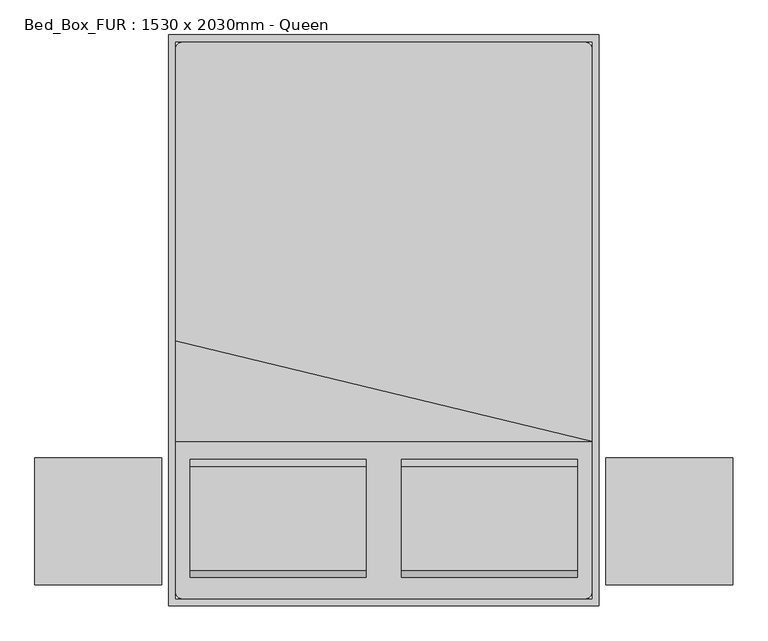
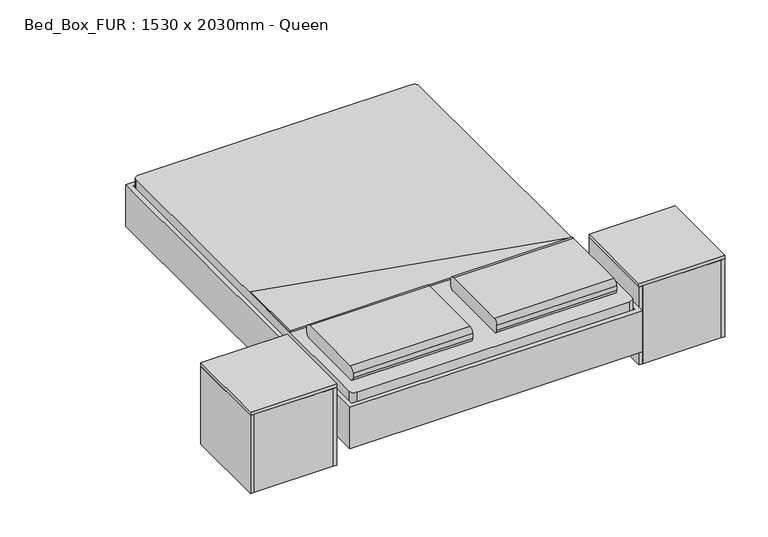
"""IFC4 building model written with IfcOpenShell, lengths in millimetres: furniture geometry, Bed_Box_FUR : 1530 x 2030mm - Queen."""

from ifc_helpers import new_model, si_unit, point, frame, frame_2d, origin, origin_with_axes, place, context, project, spatial, polyline, circle_curve, trimmed, segment, composite_curve, outline, extrude, source, transform, mapped, element, save
from ifc_brep_helpers import plane_surface, cylinder_surface, revolved_surface, advanced_brep


def bed_box_fur_1530_x_2030mm_queen_ec8485ed(model_context):
    return source(origin(), model_context, "Body", "SolidModel", [
        extrude(outline(polyline([(1149.152459, -700.1704918), (1149.152459, -305.1704918), (1559.152459, -305.1704918), (1559.152459, -700.1704918), (1149.152459, -700.1704918)])), origin_with_axes(), (0.0, 0.0, 1.0), 50.0),
        extrude(outline(polyline([(1149.152459, -700.1704918), (1149.152459, -255.1704918), (1559.152459, -255.1704918), (1559.152459, -700.1704918), (1149.152459, -700.1704918)])), frame((0.0, 0.0, 50.0), z_axis=(0.0, 0.0, 1.0), x_axis=(1.0, 0.0, 0.0)), (0.0, 0.0, 1.0), 250.0),
        extrude(outline(polyline([(1149.152459, -700.1704918), (1559.152459, -700.1704918), (1559.152459, -705.1704918), (1149.152459, -705.1704918), (1149.152459, -700.1704918)])), origin_with_axes(), (0.0, 0.0, 1.0), 430.0),
        extrude(outline(polyline([(1129.152459, -705.1704918), (1129.152459, -255.1704918), (1149.152459, -255.1704918), (1149.152459, -705.1704918), (1129.152459, -705.1704918)])), origin_with_axes(), (0.0, 0.0, 1.0), 430.0),
        extrude(outline(polyline([(1559.152459, -705.1704918), (1559.152459, -255.1704918), (1579.152459, -255.1704918), (1579.152459, -705.1704918), (1559.152459, -705.1704918)])), origin_with_axes(), (0.0, 0.0, 1.0), 430.0),
        extrude(outline(polyline([(1129.152459, -705.1704918), (1129.152459, -255.1704918), (1579.152459, -255.1704918), (1579.152459, -705.1704918), (1129.152459, -705.1704918)])), frame((0.0, 0.0, 430.0), z_axis=(0.0, 0.0, 1.0), x_axis=(1.0, 0.0, 0.0)), (0.0, 0.0, 1.0), 20.0),
        extrude(outline(polyline([(-470.847541, -700.1704918), (-880.847541, -700.1704918), (-880.847541, -305.1704918), (-470.847541, -305.1704918), (-470.847541, -700.1704918)])), origin_with_axes(), (0.0, 0.0, 1.0), 50.0),
        extrude(outline(polyline([(-470.847541, -700.1704918), (-880.847541, -700.1704918), (-880.847541, -255.1704918), (-470.847541, -255.1704918), (-470.847541, -700.1704918)])), frame((0.0, 0.0, 50.0), z_axis=(0.0, 0.0, 1.0), x_axis=(1.0, 0.0, 0.0)), (0.0, 0.0, 1.0), 250.0),
        extrude(outline(polyline([(-470.847541, -700.1704918), (-470.847541, -705.1704918), (-880.847541, -705.1704918), (-880.847541, -700.1704918), (-470.847541, -700.1704918)])), origin_with_axes(), (0.0, 0.0, 1.0), 430.0),
        extrude(outline(polyline([(-450.847541, -705.1704918), (-470.847541, -705.1704918), (-470.847541, -255.1704918), (-450.847541, -255.1704918), (-450.847541, -705.1704918)])), origin_with_axes(), (0.0, 0.0, 1.0), 430.0),
        extrude(outline(polyline([(-880.847541, -705.1704918), (-900.847541, -705.1704918), (-900.847541, -255.1704918), (-880.847541, -255.1704918), (-880.847541, -705.1704918)])), origin_with_axes(), (0.0, 0.0, 1.0), 430.0),
        extrude(outline(polyline([(-450.847541, -705.1704918), (-900.847541, -705.1704918), (-900.847541, -255.1704918), (-450.847541, -255.1704918), (-450.847541, -705.1704918)])), frame((0.0, 0.0, 430.0), z_axis=(0.0, 0.0, 1.0), x_axis=(1.0, 0.0, 0.0)), (0.0, 0.0, 1.0), 20.0),
        extrude(outline(composite_curve([segment(trimmed(circle_curve(frame_2d((-653.5704918, 431.8)), 25.4), [point((-653.5704918, 406.4))], [point((-678.9704918, 431.8))], False, "CARTESIAN"), True, "CONTINUOUS"), segment(polyline([(-678.9704918, 431.8), (-678.9704918, 457.2)]), True, "CONTINUOUS"), segment(trimmed(circle_curve(frame_2d((-653.5704918, 457.2)), 25.4), [point((-678.9704918, 457.2))], [point((-653.5704918, 482.6))], False, "CARTESIAN"), True, "CONTINUOUS"), segment(polyline([(-653.5704918, 482.6), (-285.2704918, 482.6)]), True, "CONTINUOUS"), segment(trimmed(circle_curve(frame_2d((-285.2704918, 457.2)), 25.4), [point((-285.2704918, 482.6))], [point((-259.8704918, 457.2))], False, "CARTESIAN"), True, "CONTINUOUS"), segment(polyline([(-259.8704918, 457.2), (-259.8704918, 431.8)]), True, "CONTINUOUS"), segment(trimmed(circle_curve(frame_2d((-285.2704918, 431.8)), 25.4), [point((-259.8704918, 431.8))], [point((-285.2704918, 406.4))], False, "CARTESIAN"), True, "CONTINUOUS"), segment(polyline([(-285.2704918, 406.4), (-653.5704918, 406.4)]), True, "CONTINUOUS")], self_intersect=False)), frame((402.652459, 0.0, 0.0), z_axis=(1.0, 0.0, 0.0), x_axis=(0.0, 1.0, 0.0)), (0.0, 0.0, 1.0), 625.3),
        extrude(outline(composite_curve([segment(trimmed(circle_curve(frame_2d((-653.5704918, 431.8)), 25.4), [point((-653.5704918, 406.4))], [point((-678.9704918, 431.8))], False, "CARTESIAN"), True, "CONTINUOUS"), segment(polyline([(-678.9704918, 431.8), (-678.9704918, 457.2)]), True, "CONTINUOUS"), segment(trimmed(circle_curve(frame_2d((-653.5704918, 457.2)), 25.4), [point((-678.9704918, 457.2))], [point((-653.5704918, 482.6))], False, "CARTESIAN"), True, "CONTINUOUS"), segment(polyline([(-653.5704918, 482.6), (-285.2704918, 482.6)]), True, "CONTINUOUS"), segment(trimmed(circle_curve(frame_2d((-285.2704918, 457.2)), 25.4), [point((-285.2704918, 482.6))], [point((-259.8704918, 457.2))], False, "CARTESIAN"), True, "CONTINUOUS"), segment(polyline([(-259.8704918, 457.2), (-259.8704918, 431.8)]), True, "CONTINUOUS"), segment(trimmed(circle_curve(frame_2d((-285.2704918, 431.8)), 25.4), [point((-259.8704918, 431.8))], [point((-285.2704918, 406.4))], False, "CARTESIAN"), True, "CONTINUOUS"), segment(polyline([(-285.2704918, 406.4), (-653.5704918, 406.4)]), True, "CONTINUOUS")], self_intersect=False)), frame((-349.647541, 0.0, 0.0), z_axis=(1.0, 0.0, 0.0), x_axis=(0.0, 1.0, 0.0)), (0.0, 0.0, 1.0), 625.3),
        advanced_brep(
        [(-400.1231784, -526.5704918, 177.8), (-400.1231784, -526.5704918, 196.85), (-400.1231784, -450.3704918, 196.85), (-400.1231784, -450.3704918, 177.8), (-349.3231784, -450.3704918, 177.8), (-349.3231784, -526.5704918, 177.8), (-337.1869899, -450.3704918, 196.85), (-337.1869899, -526.5704918, 196.85), (-273.2523099, -450.3704918, 14.6654962), (-273.2523099, -526.5704918, 14.6654962), (-255.9871466, -450.3704918, 22.716374), (-255.9871466, -526.5704918, 22.716374), (-250.2320921, -450.3704918, 0.0), (-250.2320921, -526.5704918, 0.0), (-250.2320921, -450.3704918, 19.05), (-250.2320921, -526.5704918, 19.05), (-171.6195862, -450.3704918, 0.0), (-171.6195862, -526.5704918, 0.0), (-171.6195862, -450.3704918, 19.05), (-171.6195862, -526.5704918, 19.05), (-158.9195862, -450.3704918, 3.4029547), (-158.9195862, -526.5704918, 3.4029547), (-168.4445862, -450.3704918, 19.9007387), (-168.4445862, -526.5704918, 19.9007387), (-98.822541, -450.3704918, 38.1), (-98.822541, -526.5704918, 38.1), (-103.9269731, -450.3704918, 57.15), (-103.9269731, -526.5704918, 57.15), (777.4518216, -450.3704918, 38.1), (777.4518216, -526.5704918, 38.1), (782.5562537, -450.3704918, 57.15), (782.5562537, -526.5704918, 57.15), (837.5488669, -450.3704918, 3.4029547), (837.5488669, -526.5704918, 3.4029547), (847.0738669, -450.3704918, 19.9007387), (847.0738669, -526.5704918, 19.9007387), (850.2488669, -450.3704918, 0.0), (850.2488669, -526.5704918, 0.0), (850.2488669, -450.3704918, 19.05), (850.2488669, -526.5704918, 19.05), (928.8613728, -450.3704918, 0.0), (928.8613728, -526.5704918, 0.0), (928.8613728, -450.3704918, 19.05), (928.8613728, -526.5704918, 19.05), (951.8815906, -450.3704918, 14.6654962), (951.8815906, -526.5704918, 14.6654962), (934.6164272, -450.3704918, 22.716374), (934.6164272, -526.5704918, 22.716374), (1027.952459, -450.3704918, 177.8), (1027.952459, -526.5704918, 177.8), (1015.8162705, -450.3704918, 196.85), (1015.8162705, -526.5704918, 196.85), (1078.752459, -526.5704918, 177.8), (1078.752459, -450.3704918, 177.8), (1078.752459, -450.3704918, 196.85), (1078.752459, -526.5704918, 196.85)],
        [
            (0, 1),
            (1, 2),
            (2, 3),
            (3, 0),
            (3, 4),
            (4, 5),
            (5, 0),
            (2, 6),
            (6, 4),
            (1, 7),
            (7, 6),
            (5, 7),
            (4, 8),
            (8, 9),
            (9, 5),
            (6, 10),
            (10, 8),
            (7, 11),
            (11, 10),
            (9, 11),
            (12, 13),
            (13, 9, circle_curve(frame((-250.2320921, -526.5704918, 25.4), z_axis=(0.0, 1.0, 0.0), x_axis=(-0.906307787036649, 0.0, -0.4226182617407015)), 25.4)),
            (8, 12, circle_curve(frame((-250.2320921, -450.3704918, 25.4), z_axis=(0.0, -1.0, 0.0), x_axis=(-0.906307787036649, 0.0, -0.4226182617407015)), 25.4)),
            (14, 12),
            (10, 14, circle_curve(frame((-250.2320921, -450.3704918, 25.4), z_axis=(0.0, -1.0, 0.0), x_axis=(-0.906307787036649, 0.0, -0.4226182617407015)), 6.35)),
            (15, 14),
            (11, 15, circle_curve(frame((-250.2320921, -526.5704918, 25.4), z_axis=(0.0, -1.0, 0.0), x_axis=(-0.906307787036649, 0.0, -0.4226182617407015)), 6.35)),
            (13, 15),
            (12, 16),
            (16, 17),
            (17, 13),
            (14, 18),
            (18, 16),
            (15, 19),
            (19, 18),
            (17, 19),
            (20, 21),
            (21, 17, circle_curve(frame((-171.6195862, -526.5704918, 25.4), z_axis=(0.0, 1.0, 0.0), x_axis=(0.0, 0.0, -1.0)), 25.4)),
            (16, 20, circle_curve(frame((-171.6195862, -450.3704918, 25.4), z_axis=(0.0, -1.0, 0.0), x_axis=(0.0, 0.0, -1.0)), 25.4)),
            (22, 20),
            (18, 22, circle_curve(frame((-171.6195862, -450.3704918, 25.4), z_axis=(0.0, -1.0, 0.0), x_axis=(0.0, 0.0, -1.0)), 6.35)),
            (23, 22),
            (19, 23, circle_curve(frame((-171.6195862, -526.5704918, 25.4), z_axis=(0.0, -1.0, 0.0), x_axis=(0.0, 0.0, -1.0)), 6.35)),
            (21, 23),
            (20, 24),
            (24, 25),
            (25, 21),
            (22, 26),
            (26, 24),
            (23, 27),
            (27, 26),
            (25, 27),
            (24, 28),
            (28, 29),
            (29, 25),
            (26, 30),
            (30, 28),
            (27, 31),
            (31, 30),
            (29, 31),
            (28, 32),
            (32, 33),
            (33, 29),
            (30, 34),
            (34, 32),
            (31, 35),
            (35, 34),
            (33, 35),
            (36, 37),
            (37, 33, circle_curve(frame((850.2488669, -526.5704918, 25.4), z_axis=(0.0, 1.0, 0.0), x_axis=(-0.5000000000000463, 0.0, -0.8660254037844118)), 25.4)),
            (32, 36, circle_curve(frame((850.2488669, -450.3704918, 25.4), z_axis=(0.0, -1.0, 0.0), x_axis=(-0.5000000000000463, 0.0, -0.8660254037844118)), 25.4)),
            (38, 36),
            (34, 38, circle_curve(frame((850.2488669, -450.3704918, 25.4), z_axis=(0.0, -1.0, 0.0), x_axis=(-0.5000000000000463, 0.0, -0.8660254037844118)), 6.35)),
            (39, 38),
            (35, 39, circle_curve(frame((850.2488669, -526.5704918, 25.4), z_axis=(0.0, -1.0, 0.0), x_axis=(-0.5000000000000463, 0.0, -0.8660254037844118)), 6.35)),
            (37, 39),
            (36, 40),
            (40, 41),
            (41, 37),
            (38, 42),
            (42, 40),
            (39, 43),
            (43, 42),
            (41, 43),
            (44, 45),
            (45, 41, circle_curve(frame((928.8613728, -526.5704918, 25.4), z_axis=(0.0, 1.0, 0.0), x_axis=(0.0, 0.0, -1.0)), 25.4)),
            (40, 44, circle_curve(frame((928.8613728, -450.3704918, 25.4), z_axis=(0.0, -1.0, 0.0), x_axis=(0.0, 0.0, -1.0)), 25.4)),
            (46, 44),
            (42, 46, circle_curve(frame((928.8613728, -450.3704918, 25.4), z_axis=(0.0, -1.0, 0.0), x_axis=(0.0, 0.0, -1.0)), 6.35)),
            (47, 46),
            (43, 47, circle_curve(frame((928.8613728, -526.5704918, 25.4), z_axis=(0.0, -1.0, 0.0), x_axis=(0.0, 0.0, -1.0)), 6.35)),
            (45, 47),
            (44, 48),
            (48, 49),
            (49, 45),
            (46, 50),
            (50, 48),
            (47, 51),
            (51, 50),
            (49, 51),
            (52, 53),
            (53, 54),
            (54, 55),
            (55, 52),
            (48, 53),
            (52, 49),
            (50, 54),
            (51, 55),
        ],
        [
            plane_surface(frame((-400.1231784, -780.5704918, -152.9490627), z_axis=(-1.0, 0.0, 0.0), x_axis=(0.0, -1.0, 0.0))),
            plane_surface(frame((-400.1231784, -526.5704918, 177.8), z_axis=(0.0, 0.0, -1.0), x_axis=(1.0, 0.0, 0.0))),
            plane_surface(frame((-400.1231784, -450.3704918, 177.8), z_axis=(0.0, 1.0, 0.0), x_axis=(1.0, 0.0, 0.0))),
            plane_surface(frame((-400.1231784, -450.3704918, 196.85), z_axis=(0.0, 0.0, 1.0), x_axis=(1.0, 0.0, 0.0))),
            plane_surface(frame((-400.1231784, -526.5704918, 196.85), z_axis=(0.0, -1.0, 0.0), x_axis=(1.0, 0.0, 0.0))),
            plane_surface(frame((-349.3231784, -526.5704918, 177.8), z_axis=(-0.9063077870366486, 0.0, -0.42261826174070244), x_axis=(0.42261826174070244, 0.0, -0.9063077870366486))),
            plane_surface(frame((-349.3231784, -450.3704918, 177.8), z_axis=(0.0, 1.0000000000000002, 0.0), x_axis=(0.4226182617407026, 0.0, -0.9063077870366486))),
            plane_surface(frame((-337.1869899, -450.3704918, 196.85), z_axis=(0.9063077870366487, 0.0, 0.4226182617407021), x_axis=(0.4226182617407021, 0.0, -0.9063077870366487))),
            plane_surface(frame((-337.1869899, -526.5704918, 196.85), z_axis=(0.0, -1.0000000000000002, 0.0), x_axis=(0.4226182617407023, 0.0, -0.9063077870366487))),
            cylinder_surface(frame((-250.2320921, -780.5704918, 25.4), z_axis=(0.0, 1.0, 0.0), x_axis=(-0.906307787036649, 0.0, -0.4226182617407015)), 25.4),
            plane_surface(frame((-250.2320921, -450.3704918, 25.4), z_axis=(0.0, 1.0, 0.0), x_axis=(-0.906307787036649, 0.0, -0.4226182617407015))),
            revolved_surface(polyline([(-255.9871465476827, -450.3704918, 22.716374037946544), (-255.9871465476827, -526.5704918, 22.716374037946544)]), (-250.2320921, -780.5704918, 25.4), (0.0, 1.0, 0.0)),
            plane_surface(frame((-250.2320921, -526.5704918, 25.4), z_axis=(0.0, -1.0, 0.0), x_axis=(-0.906307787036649, 0.0, -0.4226182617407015))),
            plane_surface(frame((-250.2320921, -526.5704918, 0.0), z_axis=(0.0, 0.0, -1.0), x_axis=(1.0, 0.0, 0.0))),
            plane_surface(frame((-250.2320921, -450.3704918, 0.0), z_axis=(0.0, 1.0, 0.0), x_axis=(1.0, 0.0, 0.0))),
            plane_surface(frame((-250.2320921, -450.3704918, 19.05), z_axis=(0.0, 0.0, 1.0), x_axis=(1.0, 0.0, 0.0))),
            plane_surface(frame((-250.2320921, -526.5704918, 19.05), z_axis=(0.0, -1.0, 0.0), x_axis=(1.0, 0.0, 0.0))),
            cylinder_surface(frame((-171.6195862, -780.5704918, 25.4), z_axis=(0.0, 1.0, 0.0), x_axis=(0.0, 0.0, -1.0)), 25.4),
            plane_surface(frame((-171.6195862, -450.3704918, 25.4), z_axis=(0.0, 1.0, 0.0), x_axis=(0.0, 0.0, -1.0))),
            revolved_surface(polyline([(-171.6195862, -450.3704918, 19.049999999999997), (-171.6195862, -526.5704918, 19.049999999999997)]), (-171.6195862, -780.5704918, 25.4), (0.0, 1.0, 0.0)),
            plane_surface(frame((-171.6195862, -526.5704918, 25.4), z_axis=(0.0, -1.0, 0.0), x_axis=(0.0, 0.0, -1.0))),
            plane_surface(frame((-158.9195862, -526.5704918, 3.4029547), z_axis=(0.49999999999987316, 0.0, -0.866025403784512), x_axis=(0.866025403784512, 0.0, 0.49999999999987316))),
            plane_surface(frame((-158.9195862, -450.3704918, 3.4029547), z_axis=(0.0, 1.0, 0.0), x_axis=(0.8660254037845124, 0.0, 0.49999999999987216))),
            plane_surface(frame((-168.4445862, -450.3704918, 19.9007387), z_axis=(-0.4999999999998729, 0.0, 0.8660254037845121), x_axis=(0.8660254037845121, 0.0, 0.4999999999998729))),
            plane_surface(frame((-168.4445862, -526.5704918, 19.9007387), z_axis=(0.0, -1.0, 0.0), x_axis=(0.8660254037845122, 0.0, 0.49999999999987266))),
            plane_surface(frame((-98.822541, -526.5704918, 38.1), z_axis=(0.0, 0.0, -1.0), x_axis=(1.0, 0.0, 0.0))),
            plane_surface(frame((-98.822541, -450.3704918, 38.1), z_axis=(0.0, 1.0, 0.0), x_axis=(1.0, 0.0, 0.0))),
            plane_surface(frame((-103.9269731, -450.3704918, 57.15), z_axis=(0.0, 0.0, 1.0), x_axis=(1.0, 0.0, 0.0))),
            plane_surface(frame((-103.9269731, -526.5704918, 57.15), z_axis=(0.0, -1.0, 0.0), x_axis=(1.0, 0.0, 0.0))),
            plane_surface(frame((777.4518216, -526.5704918, 38.1), z_axis=(-0.5000000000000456, 0.0, -0.8660254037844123), x_axis=(0.8660254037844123, 0.0, -0.5000000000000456))),
            plane_surface(frame((777.4518216, -450.3704918, 38.1), z_axis=(0.0, 1.0, 0.0), x_axis=(0.8660254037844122, 0.0, -0.500000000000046))),
            plane_surface(frame((782.5562537, -450.3704918, 57.15), z_axis=(0.5000000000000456, 0.0, 0.8660254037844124), x_axis=(0.8660254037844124, 0.0, -0.5000000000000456))),
            plane_surface(frame((782.5562537, -526.5704918, 57.15), z_axis=(0.0, -1.0, 0.0), x_axis=(0.8660254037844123, 0.0, -0.5000000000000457))),
            cylinder_surface(frame((850.2488669, -780.5704918, 25.4), z_axis=(0.0, 1.0, 0.0), x_axis=(-0.5000000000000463, 0.0, -0.8660254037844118)), 25.4),
            plane_surface(frame((850.2488669, -450.3704918, 25.4), z_axis=(0.0, 1.0000000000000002, 0.0), x_axis=(-0.5000000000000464, 0.0, -0.866025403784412))),
            revolved_surface(polyline([(847.0738668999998, -450.3704918, 19.90073868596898), (847.0738668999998, -526.5704918, 19.90073868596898)]), (850.2488669, -780.5704918, 25.4), (0.0, 1.0, 0.0)),
            plane_surface(frame((850.2488669, -526.5704918, 25.4), z_axis=(0.0, -1.0000000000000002, 0.0), x_axis=(-0.5000000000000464, 0.0, -0.866025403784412))),
            plane_surface(frame((850.2488669, -526.5704918, 0.0), z_axis=(0.0, 0.0, -1.0), x_axis=(1.0, 0.0, 0.0))),
            plane_surface(frame((850.2488669, -450.3704918, 0.0), z_axis=(0.0, 1.0, 0.0), x_axis=(1.0, 0.0, 0.0))),
            plane_surface(frame((850.2488669, -450.3704918, 19.05), z_axis=(0.0, 0.0, 1.0), x_axis=(1.0, 0.0, 0.0))),
            plane_surface(frame((850.2488669, -526.5704918, 19.05), z_axis=(0.0, -1.0, 0.0), x_axis=(1.0, 0.0, 0.0))),
            cylinder_surface(frame((928.8613728, -780.5704918, 25.4), z_axis=(0.0, 1.0, 0.0), x_axis=(0.0, 0.0, -1.0)), 25.4),
            plane_surface(frame((928.8613728, -450.3704918, 25.4), z_axis=(0.0, 1.0, 0.0), x_axis=(0.0, 0.0, -1.0))),
            revolved_surface(polyline([(928.8613728, -450.3704918, 19.049999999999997), (928.8613728, -526.5704918, 19.049999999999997)]), (928.8613728, -780.5704918, 25.4), (0.0, 1.0, 0.0)),
            plane_surface(frame((928.8613728, -526.5704918, 25.4), z_axis=(0.0, -1.0, 0.0), x_axis=(0.0, 0.0, -1.0))),
            plane_surface(frame((951.8815906, -526.5704918, 14.6654962), z_axis=(0.9063077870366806, 0.0, -0.42261826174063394), x_axis=(0.42261826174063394, 0.0, 0.9063077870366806))),
            plane_surface(frame((951.8815906, -450.3704918, 14.6654962), z_axis=(0.0, 1.0, 0.0), x_axis=(0.42261826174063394, 0.0, 0.9063077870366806))),
            plane_surface(frame((934.6164272, -450.3704918, 22.716374), z_axis=(-0.9063077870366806, 0.0, 0.422618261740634), x_axis=(0.422618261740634, 0.0, 0.9063077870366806))),
            plane_surface(frame((934.6164272, -526.5704918, 22.716374), z_axis=(0.0, -1.0000000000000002, 0.0), x_axis=(0.42261826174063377, 0.0, 0.9063077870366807))),
            plane_surface(frame((1078.752459, -780.5704918, -152.9490627), z_axis=(1.0, 0.0, 0.0), x_axis=(0.0, -1.0, 0.0))),
            plane_surface(frame((1027.952459, -526.5704918, 177.8), z_axis=(0.0, 0.0, -1.0), x_axis=(1.0, 0.0, 0.0))),
            plane_surface(frame((1027.952459, -450.3704918, 177.8), z_axis=(0.0, 1.0, 0.0), x_axis=(1.0, 0.0, 0.0))),
            plane_surface(frame((1015.8162705, -450.3704918, 196.85), z_axis=(0.0, 0.0, 1.0), x_axis=(1.0, 0.0, 0.0))),
            plane_surface(frame((1015.8162705, -526.5704918, 196.85), z_axis=(0.0, -1.0, 0.0), x_axis=(1.0, 0.0, 0.0))),
        ],
        [
            (0, [[1, 2, 3, 4]]),
            (1, [[5, 6, 7, -4]]),
            (2, [[8, 9, -5, -3]]),
            (3, [[10, 11, -8, -2]]),
            (4, [[-7, 12, -10, -1]]),
            (5, [[13, 14, 15, -6]]),
            (6, [[16, 17, -13, -9]]),
            (7, [[18, 19, -16, -11]]),
            (8, [[-15, 20, -18, -12]]),
            (9, [[21, 22, -14, 23]]),
            (10, [[24, -23, -17, 25]]),
            (11, [[26, -25, -19, 27]]),
            (12, [[28, -27, -20, -22]]),
            (13, [[29, 30, 31, -21]]),
            (14, [[32, 33, -29, -24]]),
            (15, [[34, 35, -32, -26]]),
            (16, [[-31, 36, -34, -28]]),
            (17, [[37, 38, -30, 39]]),
            (18, [[40, -39, -33, 41]]),
            (19, [[42, -41, -35, 43]]),
            (20, [[44, -43, -36, -38]]),
            (21, [[45, 46, 47, -37]]),
            (22, [[48, 49, -45, -40]]),
            (23, [[50, 51, -48, -42]]),
            (24, [[-47, 52, -50, -44]]),
            (25, [[53, 54, 55, -46]]),
            (26, [[56, 57, -53, -49]]),
            (27, [[58, 59, -56, -51]]),
            (28, [[-55, 60, -58, -52]]),
            (29, [[61, 62, 63, -54]]),
            (30, [[64, 65, -61, -57]]),
            (31, [[66, 67, -64, -59]]),
            (32, [[-63, 68, -66, -60]]),
            (33, [[69, 70, -62, 71]]),
            (34, [[72, -71, -65, 73]]),
            (35, [[74, -73, -67, 75]]),
            (36, [[76, -75, -68, -70]]),
            (37, [[77, 78, 79, -69]]),
            (38, [[80, 81, -77, -72]]),
            (39, [[82, 83, -80, -74]]),
            (40, [[-79, 84, -82, -76]]),
            (41, [[85, 86, -78, 87]]),
            (42, [[88, -87, -81, 89]]),
            (43, [[90, -89, -83, 91]]),
            (44, [[92, -91, -84, -86]]),
            (45, [[93, 94, 95, -85]]),
            (46, [[96, 97, -93, -88]]),
            (47, [[98, 99, -96, -90]]),
            (48, [[-95, 100, -98, -92]]),
            (49, [[101, 102, 103, 104]]),
            (50, [[105, -101, 106, -94]]),
            (51, [[107, -102, -105, -97]]),
            (52, [[108, -103, -107, -99]]),
            (53, [[-106, -104, -108, -100]]),
        ],
    ),
        extrude(outline(composite_curve([segment(trimmed(circle_curve(frame_2d((-375.047541, -729.7704918)), 25.4), [point((-375.047541, -755.1704918))], [point((-400.447541, -729.7704918))], False, "CARTESIAN"), True, "CONTINUOUS"), segment(polyline([(-400.447541, -729.7704918), (-400.447541, 1198.6295082)]), True, "CONTINUOUS"), segment(trimmed(circle_curve(frame_2d((-375.047541, 1198.6295082)), 25.4), [point((-400.447541, 1198.6295082))], [point((-375.047541, 1224.0295082))], False, "CARTESIAN"), True, "CONTINUOUS"), segment(polyline([(-375.047541, 1224.0295082), (1053.352459, 1224.0295082)]), True, "CONTINUOUS"), segment(trimmed(circle_curve(frame_2d((1053.352459, 1198.6295082)), 25.4), [point((1053.352459, 1224.0295082))], [point((1078.752459, 1198.6295082))], False, "CARTESIAN"), True, "CONTINUOUS"), segment(polyline([(1078.752459, 1198.6295082), (1078.752459, -729.7704918)]), True, "CONTINUOUS"), segment(trimmed(circle_curve(frame_2d((1053.352459, -729.7704918)), 25.4), [point((1078.752459, -729.7704918))], [point((1053.352459, -755.1704918))], False, "CARTESIAN"), True, "CONTINUOUS"), segment(polyline([(1053.352459, -755.1704918), (-375.047541, -755.1704918)]), True, "CONTINUOUS")], self_intersect=False)), frame((0.0, 0.0, 203.2), z_axis=(0.0, 0.0, 1.0), x_axis=(1.0, 0.0, 0.0)), (0.0, 0.0, 1.0), 203.2),
        advanced_brep(
        [(-400.447541, 944.6295082, 196.85), (-400.447541, 1020.8295082, 196.85), (-400.447541, 1020.8295082, 177.8), (-400.447541, 944.6295082, 177.8), (-349.647541, 944.6295082, 177.8), (-337.5113525, 944.6295082, 196.85), (-349.647541, 1020.8295082, 177.8), (-337.5113525, 1020.8295082, 196.85), (-273.5766725, 944.6295082, 14.6654962), (-256.3115092, 944.6295082, 22.716374), (-273.5766725, 1020.8295082, 14.6654962), (-256.3115092, 1020.8295082, 22.716374), (-250.5564547, 944.6295082, 0.0), (-250.5564547, 944.6295082, 19.05), (-250.5564547, 1020.8295082, 0.0), (-250.5564547, 1020.8295082, 19.05), (-171.9439489, 944.6295082, 0.0), (-171.9439489, 944.6295082, 19.05), (-171.9439489, 1020.8295082, 0.0), (-171.9439489, 1020.8295082, 19.05), (-159.2439489, 944.6295082, 3.4029547), (-168.7689489, 944.6295082, 19.9007387), (-159.2439489, 1020.8295082, 3.4029547), (-168.7689489, 1020.8295082, 19.9007387), (-99.1469036, 944.6295082, 38.1), (-104.2513357, 944.6295082, 57.15), (-99.1469036, 1020.8295082, 38.1), (-104.2513357, 1020.8295082, 57.15), (777.4518216, 944.6295082, 38.1), (782.5562537, 944.6295082, 57.15), (777.4518216, 1020.8295082, 38.1), (782.5562537, 1020.8295082, 57.15), (837.5488669, 944.6295082, 3.4029547), (847.0738669, 944.6295082, 19.9007387), (837.5488669, 1020.8295082, 3.4029547), (847.0738669, 1020.8295082, 19.9007387), (850.2488669, 944.6295082, 0.0), (850.2488669, 944.6295082, 19.05), (850.2488669, 1020.8295082, 0.0), (850.2488669, 1020.8295082, 19.05), (928.8613728, 944.6295082, 0.0), (928.8613728, 944.6295082, 19.05), (928.8613728, 1020.8295082, 0.0), (928.8613728, 1020.8295082, 19.05), (951.8815906, 944.6295082, 14.6654962), (934.6164272, 944.6295082, 22.716374), (951.8815906, 1020.8295082, 14.6654962), (934.6164272, 1020.8295082, 22.716374), (1027.952459, 944.6295082, 177.8), (1015.8162705, 944.6295082, 196.85), (1027.952459, 1020.8295082, 177.8), (1015.8162705, 1020.8295082, 196.85), (1078.752459, 944.6295082, 196.85), (1078.752459, 944.6295082, 177.8), (1078.752459, 1020.8295082, 177.8), (1078.752459, 1020.8295082, 196.85)],
        [
            (0, 1),
            (1, 2),
            (2, 3),
            (3, 0),
            (3, 4),
            (4, 5),
            (5, 0),
            (2, 6),
            (6, 4),
            (1, 7),
            (7, 6),
            (5, 7),
            (4, 8),
            (8, 9),
            (9, 5),
            (6, 10),
            (10, 8),
            (7, 11),
            (11, 10),
            (9, 11),
            (12, 13),
            (13, 9, circle_curve(frame((-250.5564547, 944.6295082, 25.4), z_axis=(0.0, 1.0, 0.0), x_axis=(-0.9063077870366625, 0.0, -0.4226182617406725)), 6.35)),
            (8, 12, circle_curve(frame((-250.5564547, 944.6295082, 25.4), z_axis=(0.0, -1.0, 0.0), x_axis=(-0.9063077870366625, 0.0, -0.4226182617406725)), 25.4)),
            (14, 12),
            (10, 14, circle_curve(frame((-250.5564547, 1020.8295082, 25.4), z_axis=(0.0, -1.0, 0.0), x_axis=(-0.9063077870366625, 0.0, -0.4226182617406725)), 25.4)),
            (15, 14),
            (11, 15, circle_curve(frame((-250.5564547, 1020.8295082, 25.4), z_axis=(0.0, -1.0, 0.0), x_axis=(-0.9063077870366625, 0.0, -0.4226182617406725)), 6.35)),
            (13, 15),
            (12, 16),
            (16, 17),
            (17, 13),
            (14, 18),
            (18, 16),
            (15, 19),
            (19, 18),
            (17, 19),
            (20, 21),
            (21, 17, circle_curve(frame((-171.9439489, 944.6295082, 25.4), z_axis=(0.0, 1.0, 0.0), x_axis=(0.0, 0.0, -1.0)), 6.35)),
            (16, 20, circle_curve(frame((-171.9439489, 944.6295082, 25.4), z_axis=(0.0, -1.0, 0.0), x_axis=(0.0, 0.0, -1.0)), 25.4)),
            (22, 20),
            (18, 22, circle_curve(frame((-171.9439489, 1020.8295082, 25.4), z_axis=(0.0, -1.0, 0.0), x_axis=(0.0, 0.0, -1.0)), 25.4)),
            (23, 22),
            (19, 23, circle_curve(frame((-171.9439489, 1020.8295082, 25.4), z_axis=(0.0, -1.0, 0.0), x_axis=(0.0, 0.0, -1.0)), 6.35)),
            (21, 23),
            (20, 24),
            (24, 25),
            (25, 21),
            (22, 26),
            (26, 24),
            (23, 27),
            (27, 26),
            (25, 27),
            (24, 28),
            (28, 29),
            (29, 25),
            (26, 30),
            (30, 28),
            (27, 31),
            (31, 30),
            (29, 31),
            (28, 32),
            (32, 33),
            (33, 29),
            (30, 34),
            (34, 32),
            (31, 35),
            (35, 34),
            (33, 35),
            (36, 37),
            (37, 33, circle_curve(frame((850.2488669, 944.6295082, 25.4), z_axis=(0.0, 1.0, 0.0), x_axis=(-0.5000000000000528, 0.0, -0.8660254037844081)), 6.35)),
            (32, 36, circle_curve(frame((850.2488669, 944.6295082, 25.4), z_axis=(0.0, -1.0, 0.0), x_axis=(-0.5000000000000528, 0.0, -0.8660254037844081)), 25.4)),
            (38, 36),
            (34, 38, circle_curve(frame((850.2488669, 1020.8295082, 25.4), z_axis=(0.0, -1.0, 0.0), x_axis=(-0.5000000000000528, 0.0, -0.8660254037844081)), 25.4)),
            (39, 38),
            (35, 39, circle_curve(frame((850.2488669, 1020.8295082, 25.4), z_axis=(0.0, -1.0, 0.0), x_axis=(-0.5000000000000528, 0.0, -0.8660254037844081)), 6.35)),
            (37, 39),
            (36, 40),
            (40, 41),
            (41, 37),
            (38, 42),
            (42, 40),
            (39, 43),
            (43, 42),
            (41, 43),
            (44, 45),
            (45, 41, circle_curve(frame((928.8613728, 944.6295082, 25.4), z_axis=(0.0, 1.0, 0.0), x_axis=(0.0, 0.0, -1.0)), 6.35)),
            (40, 44, circle_curve(frame((928.8613728, 944.6295082, 25.4), z_axis=(0.0, -1.0, 0.0), x_axis=(0.0, 0.0, -1.0)), 25.4)),
            (46, 44),
            (42, 46, circle_curve(frame((928.8613728, 1020.8295082, 25.4), z_axis=(0.0, -1.0, 0.0), x_axis=(0.0, 0.0, -1.0)), 25.4)),
            (47, 46),
            (43, 47, circle_curve(frame((928.8613728, 1020.8295082, 25.4), z_axis=(0.0, -1.0, 0.0), x_axis=(0.0, 0.0, -1.0)), 6.35)),
            (45, 47),
            (44, 48),
            (48, 49),
            (49, 45),
            (46, 50),
            (50, 48),
            (47, 51),
            (51, 50),
            (49, 51),
            (52, 53),
            (53, 54),
            (54, 55),
            (55, 52),
            (48, 53),
            (52, 49),
            (50, 54),
            (51, 55),
        ],
        [
            plane_surface(frame((-400.447541, 1249.4295082, -127.5947323), z_axis=(-1.0, 0.0, 0.0), x_axis=(0.0, -1.0, 0.0))),
            plane_surface(frame((-400.447541, 944.6295082, 196.85), z_axis=(0.0, -1.0, 0.0), x_axis=(1.0, 0.0, 0.0))),
            plane_surface(frame((-400.447541, 944.6295082, 177.8), z_axis=(0.0, 0.0, -1.0), x_axis=(1.0, 0.0, 0.0))),
            plane_surface(frame((-400.447541, 1020.8295082, 177.8), z_axis=(0.0, 1.0, 0.0), x_axis=(1.0, 0.0, 0.0))),
            plane_surface(frame((-400.447541, 1020.8295082, 196.85), z_axis=(0.0, 0.0, 1.0), x_axis=(1.0, 0.0, 0.0))),
            plane_surface(frame((-337.5113525, 944.6295082, 196.85), z_axis=(0.0, -1.0, 0.0), x_axis=(0.42261826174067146, 0.0, -0.906307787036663))),
            plane_surface(frame((-349.647541, 944.6295082, 177.8), z_axis=(-0.906307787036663, 0.0, -0.4226182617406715), x_axis=(0.4226182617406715, 0.0, -0.906307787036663))),
            plane_surface(frame((-349.647541, 1020.8295082, 177.8), z_axis=(0.0, 1.0, 0.0), x_axis=(0.4226182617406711, 0.0, -0.9063077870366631))),
            plane_surface(frame((-337.5113525, 1020.8295082, 196.85), z_axis=(0.906307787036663, 0.0, 0.4226182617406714), x_axis=(0.4226182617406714, 0.0, -0.906307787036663))),
            plane_surface(frame((-250.5564547, 944.6295082, 25.4), z_axis=(0.0, -1.0, 0.0), x_axis=(-0.9063077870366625, 0.0, -0.4226182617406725))),
            cylinder_surface(frame((-250.5564547, 1249.4295082, 25.4), z_axis=(0.0, 1.0, 0.0), x_axis=(-0.9063077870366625, 0.0, -0.4226182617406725)), 25.4),
            plane_surface(frame((-250.5564547, 1020.8295082, 25.4), z_axis=(0.0, 1.0, 0.0), x_axis=(-0.9063077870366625, 0.0, -0.4226182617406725))),
            revolved_surface(polyline([(-256.3115091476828, 1020.8295082, 22.71637403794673), (-256.3115091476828, 944.6295082, 22.71637403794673)]), (-250.5564547, 1249.4295082, 25.4), (0.0, 1.0, 0.0)),
            plane_surface(frame((-250.5564547, 944.6295082, 19.05), z_axis=(0.0, -1.0, 0.0), x_axis=(1.0, 0.0, 0.0))),
            plane_surface(frame((-250.5564547, 944.6295082, 0.0), z_axis=(0.0, 0.0, -1.0), x_axis=(1.0, 0.0, 0.0))),
            plane_surface(frame((-250.5564547, 1020.8295082, 0.0), z_axis=(0.0, 1.0, 0.0), x_axis=(1.0, 0.0, 0.0))),
            plane_surface(frame((-250.5564547, 1020.8295082, 19.05), z_axis=(0.0, 0.0, 1.0), x_axis=(1.0, 0.0, 0.0))),
            plane_surface(frame((-171.9439489, 944.6295082, 25.4), z_axis=(0.0, -1.0, 0.0), x_axis=(0.0, 0.0, -1.0))),
            cylinder_surface(frame((-171.9439489, 1249.4295082, 25.4), z_axis=(0.0, 1.0, 0.0), x_axis=(0.0, 0.0, -1.0)), 25.4),
            plane_surface(frame((-171.9439489, 1020.8295082, 25.4), z_axis=(0.0, 1.0, 0.0), x_axis=(0.0, 0.0, -1.0))),
            revolved_surface(polyline([(-171.9439489, 1020.8295082, 19.049999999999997), (-171.9439489, 944.6295082, 19.049999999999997)]), (-171.9439489, 1249.4295082, 25.4), (0.0, 1.0, 0.0)),
            plane_surface(frame((-168.7689489, 944.6295082, 19.9007387), z_axis=(0.0, -1.0, 0.0), x_axis=(0.8660254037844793, 0.0, 0.4999999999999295))),
            plane_surface(frame((-159.2439489, 944.6295082, 3.4029547), z_axis=(0.4999999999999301, 0.0, -0.8660254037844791), x_axis=(0.8660254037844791, 0.0, 0.4999999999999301))),
            plane_surface(frame((-159.2439489, 1020.8295082, 3.4029547), z_axis=(0.0, 1.0, 0.0), x_axis=(0.8660254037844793, 0.0, 0.49999999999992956))),
            plane_surface(frame((-168.7689489, 1020.8295082, 19.9007387), z_axis=(-0.4999999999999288, 0.0, 0.8660254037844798), x_axis=(0.8660254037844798, 0.0, 0.4999999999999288))),
            plane_surface(frame((-104.2513357, 944.6295082, 57.15), z_axis=(0.0, -1.0, 0.0), x_axis=(1.0, 0.0, 0.0))),
            plane_surface(frame((-99.1469036, 944.6295082, 38.1), z_axis=(0.0, 0.0, -1.0), x_axis=(1.0, 0.0, 0.0))),
            plane_surface(frame((-99.1469036, 1020.8295082, 38.1), z_axis=(0.0, 1.0, 0.0), x_axis=(1.0, 0.0, 0.0))),
            plane_surface(frame((-104.2513357, 1020.8295082, 57.15), z_axis=(0.0, 0.0, 1.0), x_axis=(1.0, 0.0, 0.0))),
            plane_surface(frame((782.5562537, 944.6295082, 57.15), z_axis=(0.0, -1.0000000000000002, 0.0), x_axis=(0.8660254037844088, 0.0, -0.5000000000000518))),
            plane_surface(frame((777.4518216, 944.6295082, 38.1), z_axis=(-0.5000000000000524, 0.0, -0.8660254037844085), x_axis=(0.8660254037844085, 0.0, -0.5000000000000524))),
            plane_surface(frame((777.4518216, 1020.8295082, 38.1), z_axis=(0.0, 1.0, 0.0), x_axis=(0.8660254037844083, 0.0, -0.5000000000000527))),
            plane_surface(frame((782.5562537, 1020.8295082, 57.15), z_axis=(0.5000000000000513, 0.0, 0.8660254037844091), x_axis=(0.8660254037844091, 0.0, -0.5000000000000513))),
            plane_surface(frame((850.2488669, 944.6295082, 25.4), z_axis=(0.0, -1.0000000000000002, 0.0), x_axis=(-0.500000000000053, 0.0, -0.8660254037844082))),
            cylinder_surface(frame((850.2488669, 1249.4295082, 25.4), z_axis=(0.0, 1.0, 0.0), x_axis=(-0.5000000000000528, 0.0, -0.8660254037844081)), 25.4),
            plane_surface(frame((850.2488669, 1020.8295082, 25.4), z_axis=(0.0, 1.0000000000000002, 0.0), x_axis=(-0.500000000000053, 0.0, -0.8660254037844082))),
            revolved_surface(polyline([(847.0738668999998, 1020.8295082, 19.900738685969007), (847.0738668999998, 944.6295082, 19.900738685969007)]), (850.2488669, 1249.4295082, 25.4), (0.0, 1.0, 0.0)),
            plane_surface(frame((850.2488669, 944.6295082, 19.05), z_axis=(0.0, -1.0, 0.0), x_axis=(1.0, 0.0, 0.0))),
            plane_surface(frame((850.2488669, 944.6295082, 0.0), z_axis=(0.0, 0.0, -1.0), x_axis=(1.0, 0.0, 0.0))),
            plane_surface(frame((850.2488669, 1020.8295082, 0.0), z_axis=(0.0, 1.0, 0.0), x_axis=(1.0, 0.0, 0.0))),
            plane_surface(frame((850.2488669, 1020.8295082, 19.05), z_axis=(0.0, 0.0, 1.0), x_axis=(1.0, 0.0, 0.0))),
            plane_surface(frame((928.8613728, 944.6295082, 25.4), z_axis=(0.0, -1.0, 0.0), x_axis=(0.0, 0.0, -1.0))),
            cylinder_surface(frame((928.8613728, 1249.4295082, 25.4), z_axis=(0.0, 1.0, 0.0), x_axis=(0.0, 0.0, -1.0)), 25.4),
            plane_surface(frame((928.8613728, 1020.8295082, 25.4), z_axis=(0.0, 1.0, 0.0), x_axis=(0.0, 0.0, -1.0))),
            revolved_surface(polyline([(928.8613728, 1020.8295082, 19.049999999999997), (928.8613728, 944.6295082, 19.049999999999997)]), (928.8613728, 1249.4295082, 25.4), (0.0, 1.0, 0.0)),
            plane_surface(frame((934.6164272, 944.6295082, 22.716374), z_axis=(0.0, -1.0, 0.0), x_axis=(0.4226182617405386, 0.0, 0.906307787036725))),
            plane_surface(frame((951.8815906, 944.6295082, 14.6654962), z_axis=(0.906307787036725, 0.0, -0.4226182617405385), x_axis=(0.4226182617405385, 0.0, 0.906307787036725))),
            plane_surface(frame((951.8815906, 1020.8295082, 14.6654962), z_axis=(0.0, 1.0000000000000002, 0.0), x_axis=(0.42261826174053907, 0.0, 0.9063077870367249))),
            plane_surface(frame((934.6164272, 1020.8295082, 22.716374), z_axis=(-0.9063077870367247, 0.0, 0.4226182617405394), x_axis=(0.4226182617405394, 0.0, 0.9063077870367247))),
            plane_surface(frame((1078.752459, 1249.4295082, -127.5947323), z_axis=(1.0, 0.0, 0.0), x_axis=(0.0, -1.0, 0.0))),
            plane_surface(frame((1015.8162705, 944.6295082, 196.85), z_axis=(0.0, -1.0, 0.0), x_axis=(1.0, 0.0, 0.0))),
            plane_surface(frame((1027.952459, 944.6295082, 177.8), z_axis=(0.0, 0.0, -1.0), x_axis=(1.0, 0.0, 0.0))),
            plane_surface(frame((1027.952459, 1020.8295082, 177.8), z_axis=(0.0, 1.0, 0.0), x_axis=(1.0, 0.0, 0.0))),
            plane_surface(frame((1015.8162705, 1020.8295082, 196.85), z_axis=(0.0, 0.0, 1.0), x_axis=(1.0, 0.0, 0.0))),
        ],
        [
            (0, [[1, 2, 3, 4]]),
            (1, [[5, 6, 7, -4]]),
            (2, [[8, 9, -5, -3]]),
            (3, [[10, 11, -8, -2]]),
            (4, [[-7, 12, -10, -1]]),
            (5, [[13, 14, 15, -6]]),
            (6, [[16, 17, -13, -9]]),
            (7, [[18, 19, -16, -11]]),
            (8, [[-15, 20, -18, -12]]),
            (9, [[21, 22, -14, 23]]),
            (10, [[24, -23, -17, 25]]),
            (11, [[26, -25, -19, 27]]),
            (12, [[28, -27, -20, -22]]),
            (13, [[29, 30, 31, -21]]),
            (14, [[32, 33, -29, -24]]),
            (15, [[34, 35, -32, -26]]),
            (16, [[-31, 36, -34, -28]]),
            (17, [[37, 38, -30, 39]]),
            (18, [[40, -39, -33, 41]]),
            (19, [[42, -41, -35, 43]]),
            (20, [[44, -43, -36, -38]]),
            (21, [[45, 46, 47, -37]]),
            (22, [[48, 49, -45, -40]]),
            (23, [[50, 51, -48, -42]]),
            (24, [[-47, 52, -50, -44]]),
            (25, [[53, 54, 55, -46]]),
            (26, [[56, 57, -53, -49]]),
            (27, [[58, 59, -56, -51]]),
            (28, [[-55, 60, -58, -52]]),
            (29, [[61, 62, 63, -54]]),
            (30, [[64, 65, -61, -57]]),
            (31, [[66, 67, -64, -59]]),
            (32, [[-63, 68, -66, -60]]),
            (33, [[69, 70, -62, 71]]),
            (34, [[72, -71, -65, 73]]),
            (35, [[74, -73, -67, 75]]),
            (36, [[76, -75, -68, -70]]),
            (37, [[77, 78, 79, -69]]),
            (38, [[80, 81, -77, -72]]),
            (39, [[82, 83, -80, -74]]),
            (40, [[-79, 84, -82, -76]]),
            (41, [[85, 86, -78, 87]]),
            (42, [[88, -87, -81, 89]]),
            (43, [[90, -89, -83, 91]]),
            (44, [[92, -91, -84, -86]]),
            (45, [[93, 94, 95, -85]]),
            (46, [[96, 97, -93, -88]]),
            (47, [[98, 99, -96, -90]]),
            (48, [[-95, 100, -98, -92]]),
            (49, [[101, 102, 103, 104]]),
            (50, [[105, -101, 106, -94]]),
            (51, [[107, -102, -105, -97]]),
            (52, [[108, -103, -107, -99]]),
            (53, [[-106, -104, -108, -100]]),
        ],
    ),
        extrude(outline(polyline([(1104.152459, -780.5704918), (-425.847541, -780.5704918), (-425.847541, 1249.4295082), (1104.152459, 1249.4295082), (1104.152459, -780.5704918)]), holes=[polyline([(1078.752459, -755.1704918), (1078.752459, 1224.0295082), (-400.447541, 1224.0295082), (-400.447541, -755.1704918), (1078.752459, -755.1704918)])]), frame((0.0, 0.0, 127.0), z_axis=(0.0, 0.0, 1.0), x_axis=(1.0, 0.0, 0.0)), (0.0, 0.0, 1.0), 228.6),
        extrude(outline(polyline([(1078.752459, -195.9503534), (-400.447541, -195.9503534), (-400.447541, 160.5646882), (1078.752459, -195.9503534)])), frame((0.0, 0.0, 406.4), z_axis=(0.0, 0.0, 1.0), x_axis=(1.0, 0.0, 0.0)), (0.0, 0.0, 1.0), 10.0),
    ])


if __name__ == "__main__":
    model = new_model("IFC4")
    model_context = context("Model", 3, world=origin())
    ifc_project = project(units=[si_unit("LENGTHUNIT", "METRE", prefix="MILLI")], contexts=[model_context])
    site = spatial("IfcSite", under=ifc_project)
    building = spatial("IfcBuilding", under=site)
    placement = place(None, origin())
    bed_box_fur_1530_x_2030mm_queen_shape = bed_box_fur_1530_x_2030mm_queen_ec8485ed(model_context)
    element("IfcFurniture", 1, ObjectType="Bed_Box_FUR : 1530 x 2030mm - Queen", at=placement, inside=building, context=model_context, shape_type="MappedRepresentation", body=[
        mapped(bed_box_fur_1530_x_2030mm_queen_shape, transform((0.0, 0.0, 0.0), x_axis=(1.0, 0.0, 0.0), y_axis=(0.0, 1.0, 0.0), z_axis=(0.0, 0.0, 1.0))),
    ])
    save(model, "model.ifc")
